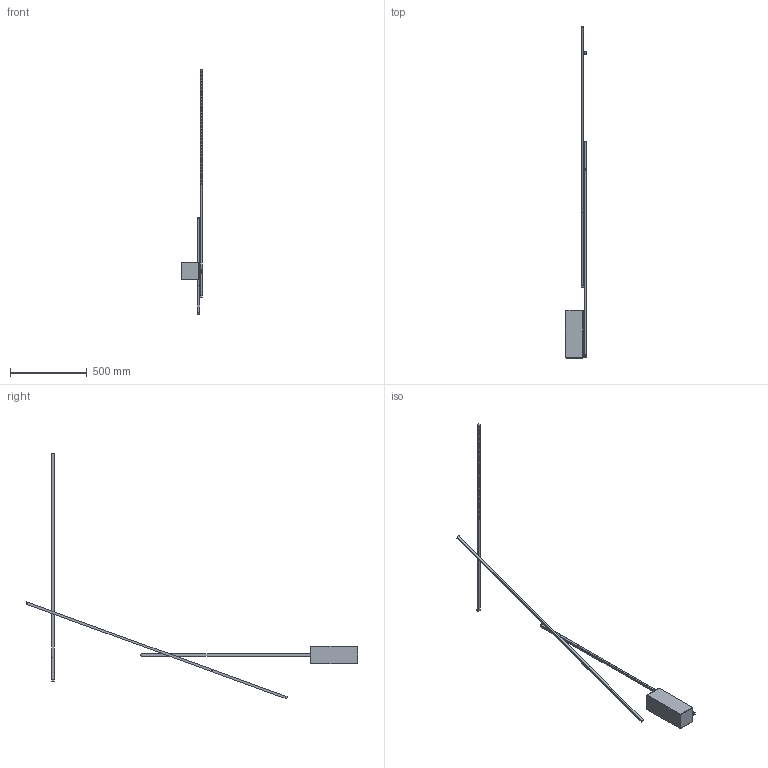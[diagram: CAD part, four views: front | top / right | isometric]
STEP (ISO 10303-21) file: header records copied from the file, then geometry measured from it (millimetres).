
FILE_DESCRIPTION (( 'STEP AP203' ), '1' );
FILE_NAME ('3D_flamingo.STEP', '2026-07-16T13:45:23', ( '' ), ( '' ), 'SwSTEP 2.0', 'SolidWorks 2016', '' );
FILE_SCHEMA (( 'CONFIG_CONTROL_DESIGN' ));
Length unit declared in the file: millimetre
Products named in the file (1): 3D_flamingo
Bounding box: 137.45 x 2167.45 x 1606.26 mm (x, y, z)
Volume: 4941096.2 mm3; surface area: 528707.3 mm2
Topology: 6 solids, 6 shells, 408 faces, 929 edges, 583 vertices
Faces by surface type: plane 260, cylinder 136, cone 8, sphere 4
Entity records: 11399 total; most frequent: CARTESIAN_POINT 2013, DIRECTION 1984, ORIENTED_EDGE 1850, EDGE_CURVE 925, AXIS2_PLACEMENT_3D 674, LINE 636, VECTOR 636, VERTEX_POINT 583
